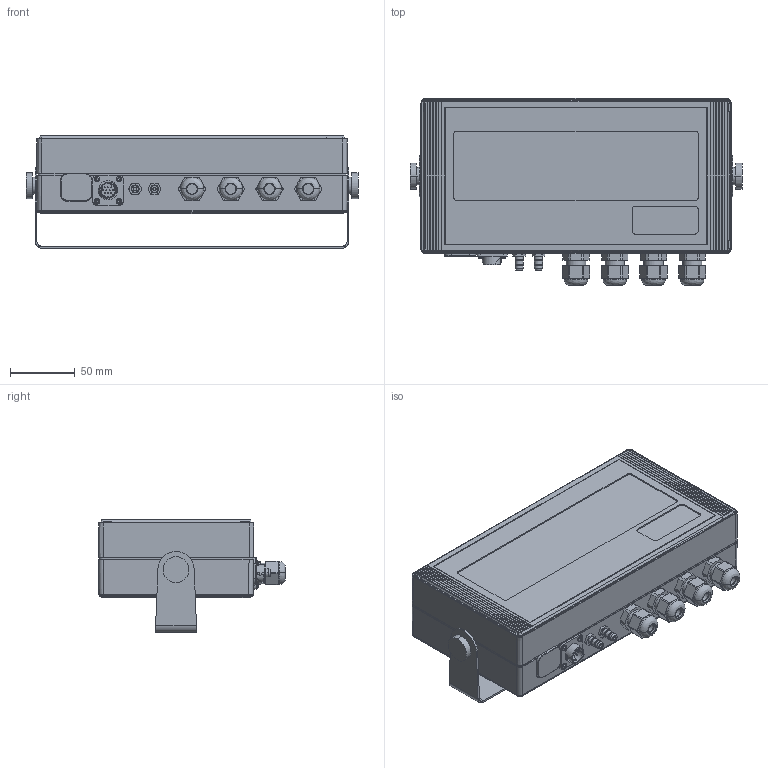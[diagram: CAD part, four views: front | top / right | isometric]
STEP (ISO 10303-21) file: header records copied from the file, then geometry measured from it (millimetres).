
FILE_DESCRIPTION((''),'2;1');
FILE_NAME('CA310_ETHERNET_SW0001','2016-06-24T',('REFT'),(''),'PRO/ENGINEER BY PARAMETRIC TECHNOLOGY CORPORATION, 2012420','PRO/ENGINEER BY PARAMETRIC TECHNOLOGY CORPORATION, 2012420','');
FILE_SCHEMA(('CONFIG_CONTROL_DESIGN'));
Length unit declared in the file: millimetre
Products named in the file (1): CA310_ETHERNET_SW0001
Bounding box: 257 x 144.69 x 87.2 mm (x, y, z)
Volume: 1726872.2 mm3; surface area: 144298.9 mm2
Topology: 1 solids, 2 shells, 893 faces, 2248 edges, 1430 vertices
Faces by surface type: plane 403, cylinder 334, torus 45, cone 44, bspline 30, sphere 21, revolution 8, extrusion 8
Entity records: 31322 total; most frequent: CARTESIAN_POINT 9989, ORIENTED_EDGE 4434, DIRECTION 4369, EDGE_CURVE 2217, AXIS2_PLACEMENT_3D 1581, VERTEX_POINT 1430, VECTOR 1199, LINE 1191
